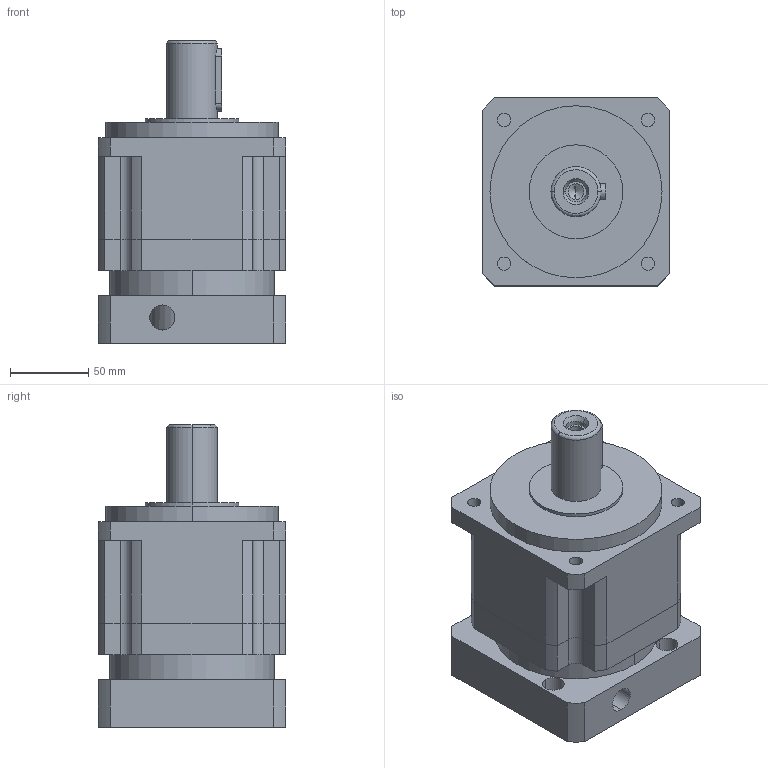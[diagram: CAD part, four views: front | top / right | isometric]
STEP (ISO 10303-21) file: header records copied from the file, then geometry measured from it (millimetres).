
FILE_DESCRIPTION (( 'STEP AP214' ), '1' );
FILE_NAME ('PLG120-L1-19-95-130.STEP', '2022-04-23T05:50:07', ( '' ), ( '' ), 'SwSTEP 2.0', 'SolidWorks 2017', '' );
FILE_SCHEMA (( 'AUTOMOTIVE_DESIGN' ));
Length unit declared in the file: millimetre
Products named in the file (7): PLG120-薊粣ん-19_LZ03; PLG120-本体齿圈; 囀鞠褒蹟佪-M8℅25; PLG120-L1-19-95-130; 粣創-6009 45x75x16; 邧埴瑩 10x8x40; PLG120-蟀諉-19-95-M8-130-LR60
Assembly tree (6 placements, depth 2):
  PLG120-L1-19-95-130
    PLG120-本体齿圈
    PLG120-薊粣ん-19_LZ03
    PLG120-蟀諉-19-95-M8-130-LR60
    囀鞠褒蹟佪-M8℅25
    邧埴瑩 10x8x40
    粣創-6009 45x75x16
Bounding box: 120 x 120 x 193.5 mm (x, y, z)
Volume: 1607127.1 mm3; surface area: 203490.6 mm2
Topology: 6 solids, 6 shells, 425 faces, 1192 edges, 774 vertices
Faces by surface type: cylinder 152, bspline 134, plane 123, cone 16
Entity records: 19534 total; most frequent: CARTESIAN_POINT 9041, ORIENTED_EDGE 2356, DIRECTION 1894, EDGE_CURVE 1178, AXIS2_PLACEMENT_3D 783, VERTEX_POINT 770, EDGE_LOOP 512, CIRCLE 483
